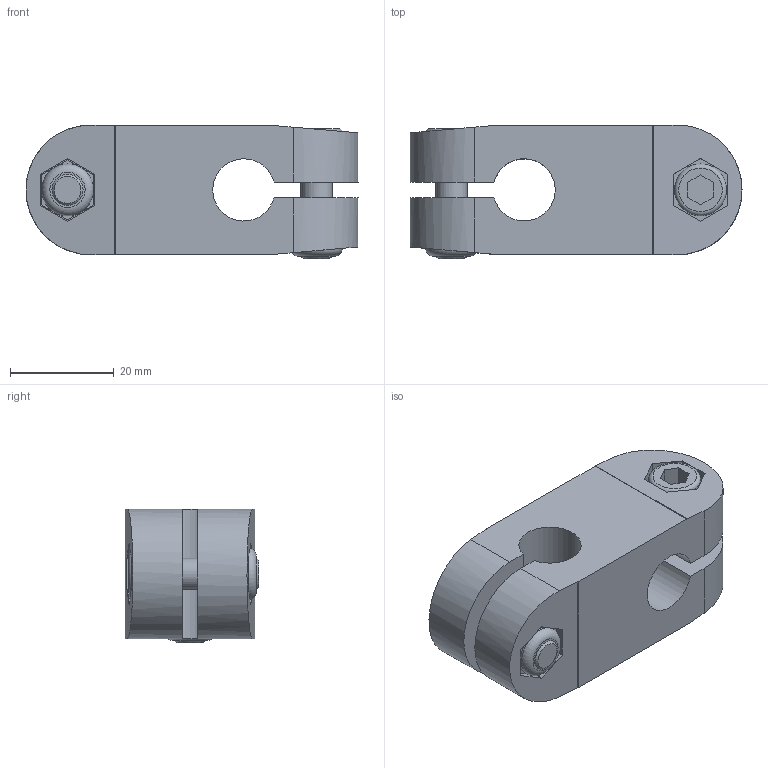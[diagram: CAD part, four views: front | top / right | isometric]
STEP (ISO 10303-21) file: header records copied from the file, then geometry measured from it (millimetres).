
FILE_DESCRIPTION( ( 'STEP AP203' ), '1' );
FILE_NAME( 'C:/Temp/Ganter_Step_05_03_2020/data/3_7/131/gn_131_1_al/Two-way connector clamp GN 131-B12-B12-2-SW.stp', '2020-03-12T14:16:05', ( 'License CC BY-ND 4.0' ), ( 'CADENAS' ), ' ', 'PARTsolutions', ' ' );
FILE_SCHEMA( ( 'CONFIG_CONTROL_DESIGN' ) );
Length unit declared in the file: millimetre
Products named in the file (1): _Two-way connector clamp GN 131-B12-B12-2-SW
Bounding box: 64 x 25.8 x 25.8 mm (x, y, z)
Volume: 27763.9 mm3; surface area: 11480.8 mm2
Topology: 1 solids, 1 shells, 116 faces, 279 edges, 181 vertices
Faces by surface type: plane 88, cylinder 22, torus 4, cone 2
Full cylindrical faces by diameter (mm): 6 x4, 6.5 x4, 10 x4
Entity records: 3260 total; most frequent: DIRECTION 550, CARTESIAN_POINT 549, ORIENTED_EDGE 512, EDGE_CURVE 256, LINE 196, VECTOR 196, AXIS2_PLACEMENT_3D 177, VERTEX_POINT 176
